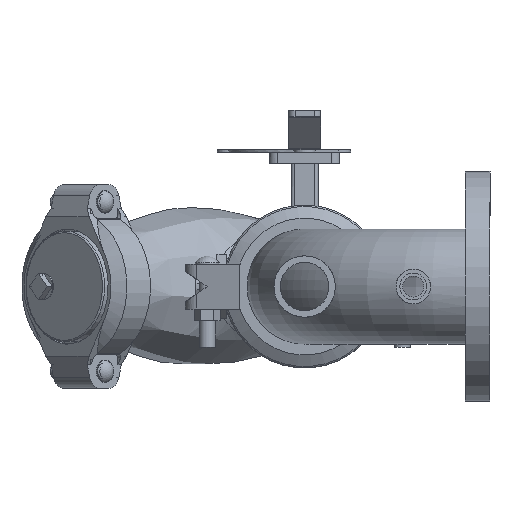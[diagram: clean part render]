
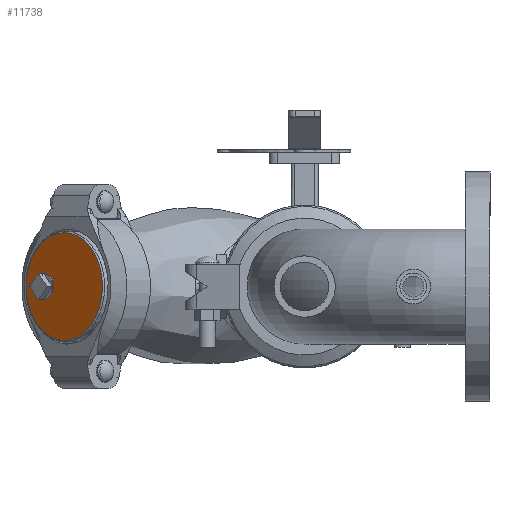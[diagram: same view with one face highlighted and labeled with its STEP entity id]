
A CAD part, front view. The second image highlights one B-rep face of the part: STEP entity #11738.
In plain terms, the highlighted planar face has unit normal (-0.707, -0.707, 0) as drawn and (1, 0, 0) by its records, which use the part's own axes.
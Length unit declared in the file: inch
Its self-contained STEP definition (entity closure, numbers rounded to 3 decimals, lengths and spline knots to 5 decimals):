
#2311=FACE_BOUND('',#3359,.T.);
#2673=FACE_OUTER_BOUND('',#3358,.T.);
#3358=EDGE_LOOP('',(#8586,#8587));
#3359=EDGE_LOOP('',(#8588));
#4059=CIRCLE('',#12922,0.5);
#4067=CIRCLE('',#12933,2.107);
#4068=CIRCLE('',#12934,2.107);
#4916=VERTEX_POINT('',#22094);
#4924=VERTEX_POINT('',#22115);
#4925=VERTEX_POINT('',#22116);
#6243=EDGE_CURVE('',#4916,#4916,#4059,.T.);
#6252=EDGE_CURVE('',#4924,#4925,#4067,.T.);
#6253=EDGE_CURVE('',#4925,#4924,#4068,.T.);
#8586=ORIENTED_EDGE('',*,*,#6252,.T.);
#8587=ORIENTED_EDGE('',*,*,#6253,.T.);
#8588=ORIENTED_EDGE('',*,*,#6243,.T.);
#10611=PLANE('',#12936);
#11738=ADVANCED_FACE('',(#2673,#2311),#10611,.T.);
#12922=AXIS2_PLACEMENT_3D('',#22096,#15143,#15144);
#12933=AXIS2_PLACEMENT_3D('',#22117,#15166,#15167);
#12934=AXIS2_PLACEMENT_3D('',#22118,#15168,#15169);
#12936=AXIS2_PLACEMENT_3D('',#22120,#15172,#15173);
#15143=DIRECTION('center_axis',(-1.,0.,0.));
#15144=DIRECTION('ref_axis',(0.,0.,1.));
#15166=DIRECTION('center_axis',(1.,0.,0.));
#15167=DIRECTION('ref_axis',(0.,0.,-1.));
#15168=DIRECTION('center_axis',(1.,0.,0.));
#15169=DIRECTION('ref_axis',(0.,0.,-1.));
#15172=DIRECTION('center_axis',(1.,0.,0.));
#15173=DIRECTION('ref_axis',(0.,0.,-1.));
#22094=CARTESIAN_POINT('',(1.13,1.1,-0.5));
#22096=CARTESIAN_POINT('Origin',(1.13,1.1,0.));
#22115=CARTESIAN_POINT('',(1.13,2.107,0.));
#22116=CARTESIAN_POINT('',(1.13,0.,2.107));
#22117=CARTESIAN_POINT('Origin',(1.13,0.,0.));
#22118=CARTESIAN_POINT('Origin',(1.13,0.,0.));
#22120=CARTESIAN_POINT('Origin',(1.13,0.,0.));
